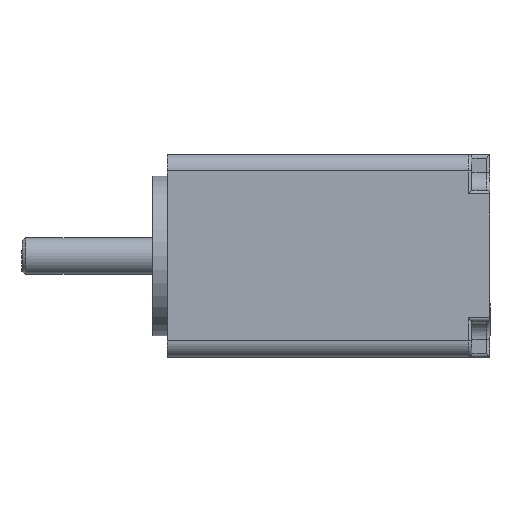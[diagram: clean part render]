
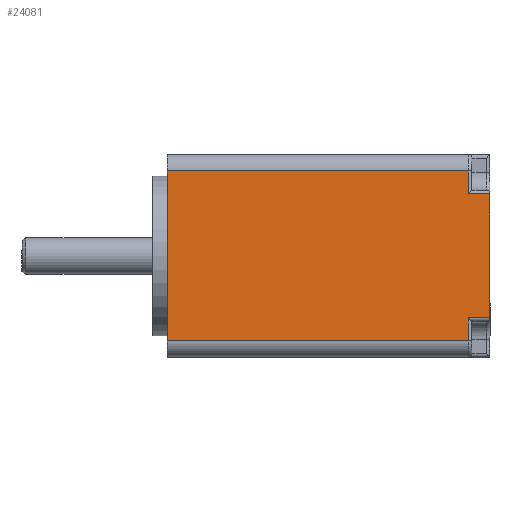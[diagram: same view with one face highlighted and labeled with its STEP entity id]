
A CAD part, top view. The second image highlights one B-rep face of the part: STEP entity #24081.
In plain terms, the highlighted planar face has unit normal (0, 0, 1).
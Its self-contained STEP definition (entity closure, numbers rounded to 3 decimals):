
#15308=CARTESIAN_POINT('',(44.55,8.55,14.));
#15309=VERTEX_POINT('',#15308);
#15316=CARTESIAN_POINT('',(44.55,-8.55,14.));
#15317=VERTEX_POINT('',#15316);
#15318=CARTESIAN_POINT('',(44.55,8.55,14.));
#15319=DIRECTION('',(0.,-1.,0.));
#15320=VECTOR('',#15319,17.1);
#15321=LINE('',#15318,#15320);
#15322=EDGE_CURVE('',#15309,#15317,#15321,.T.);
#16310=CARTESIAN_POINT('',(41.55,8.55,14.));
#16311=VERTEX_POINT('',#16310);
#16321=CARTESIAN_POINT('',(41.55,8.55,14.));
#16322=DIRECTION('',(1.,0.,0.));
#16323=VECTOR('',#16322,3.);
#16324=LINE('',#16321,#16323);
#16325=EDGE_CURVE('',#16311,#15309,#16324,.T.);
#16335=CARTESIAN_POINT('',(41.55,-11.7,14.));
#16336=VERTEX_POINT('',#16335);
#16354=CARTESIAN_POINT('',(41.55,-8.55,14.));
#16355=VERTEX_POINT('',#16354);
#16365=CARTESIAN_POINT('',(41.55,-8.55,14.));
#16366=DIRECTION('',(0.,-1.,0.));
#16367=VECTOR('',#16366,3.15);
#16368=LINE('',#16365,#16367);
#16369=EDGE_CURVE('',#16355,#16336,#16368,.T.);
#16379=CARTESIAN_POINT('',(44.55,-8.55,14.));
#16380=DIRECTION('',(-1.,0.,0.));
#16381=VECTOR('',#16380,3.);
#16382=LINE('',#16379,#16381);
#16383=EDGE_CURVE('',#15317,#16355,#16382,.T.);
#16403=CARTESIAN_POINT('',(41.55,11.7,14.));
#16404=VERTEX_POINT('',#16403);
#16412=CARTESIAN_POINT('',(41.55,11.7,14.));
#16413=DIRECTION('',(0.,-1.,0.));
#16414=VECTOR('',#16413,3.15);
#16415=LINE('',#16412,#16414);
#16416=EDGE_CURVE('',#16404,#16311,#16415,.T.);
#23685=CARTESIAN_POINT('',(0.,11.7,14.));
#23686=VERTEX_POINT('',#23685);
#23694=CARTESIAN_POINT('',(0.,11.7,14.));
#23695=DIRECTION('',(1.,0.,0.));
#23696=VECTOR('',#23695,41.55);
#23697=LINE('',#23694,#23696);
#23698=EDGE_CURVE('',#23686,#16404,#23697,.T.);
#23709=CARTESIAN_POINT('',(0.,-11.7,14.));
#23710=VERTEX_POINT('',#23709);
#23711=CARTESIAN_POINT('',(41.55,-11.7,14.));
#23712=DIRECTION('',(-1.,0.,0.));
#23713=VECTOR('',#23712,41.55);
#23714=LINE('',#23711,#23713);
#23715=EDGE_CURVE('',#16336,#23710,#23714,.T.);
#24061=CARTESIAN_POINT('',(40.275,0.,14.));
#24062=DIRECTION('',(0.,1.,0.));
#24063=DIRECTION('',(0.,-0.,1.));
#24064=AXIS2_PLACEMENT_3D('',#24061,#24063,#24062);
#24065=PLANE('',#24064);
#24066=ORIENTED_EDGE('',*,*,#16369,.F.);
#24067=ORIENTED_EDGE('',*,*,#16383,.F.);
#24068=ORIENTED_EDGE('',*,*,#15322,.F.);
#24069=ORIENTED_EDGE('',*,*,#16325,.F.);
#24070=ORIENTED_EDGE('',*,*,#16416,.F.);
#24071=ORIENTED_EDGE('',*,*,#23698,.F.);
#24072=CARTESIAN_POINT('',(0.,11.7,14.));
#24073=DIRECTION('',(0.,-1.,0.));
#24074=VECTOR('',#24073,23.4);
#24075=LINE('',#24072,#24074);
#24076=EDGE_CURVE('',#23686,#23710,#24075,.T.);
#24077=ORIENTED_EDGE('E2196',*,*,#24076,.T.);
#24078=ORIENTED_EDGE('E2196',*,*,#23715,.F.);
#24079=EDGE_LOOP('',(#24066,#24067,#24068,#24069,#24070,#24071,#24077,#24078));
#24080=FACE_OUTER_BOUND('',#24079,.T.);
#24081=ADVANCED_FACE('F688',(#24080),#24065,.T.);
